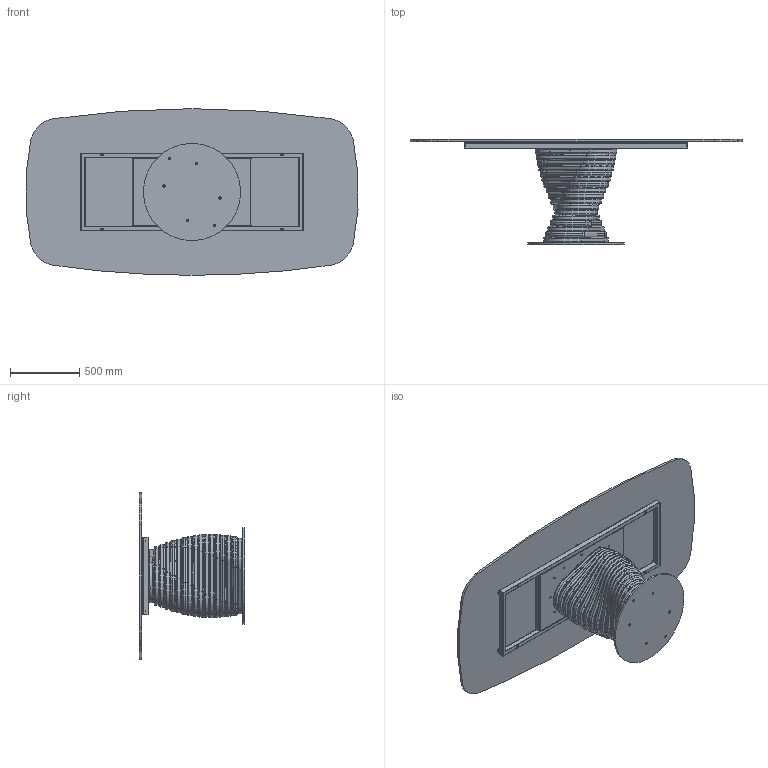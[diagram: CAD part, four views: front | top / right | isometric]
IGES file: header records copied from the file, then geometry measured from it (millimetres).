
Start section: SolidWorks IGES file using analytic representation for surfaces
Global section: file name: Y:\eforma\TECNICO\SOLIDWORKS\E-FORMA\1-TAVOLI\ROTOLO\02 parts\RO43G.IGS; native system: SolidWorks 2022; preprocessor: SolidWorks 2022; author: eforma.tech; date: 240807.153941; units: millimetre
Bounding box: 2391.62 x 757 x 1200 mm (x, y, z)
Volume: 53010632.1 mm3; surface area: 13259149.9 mm2
Topology: 98 solids, 98 shells, 1497 faces, 3551 edges, 2224 vertices
Faces by surface type: revolution 883, plane 614
